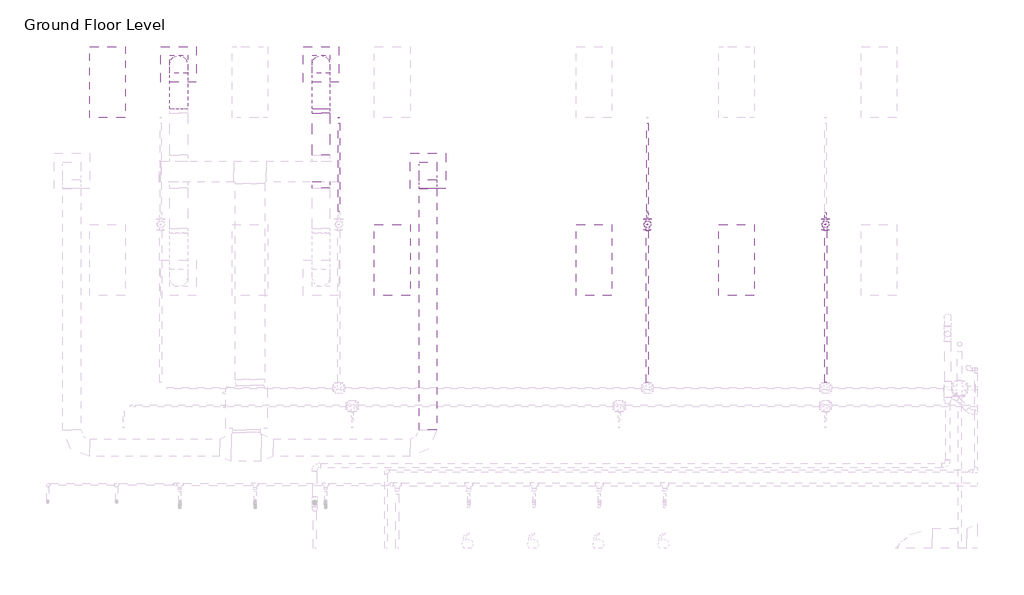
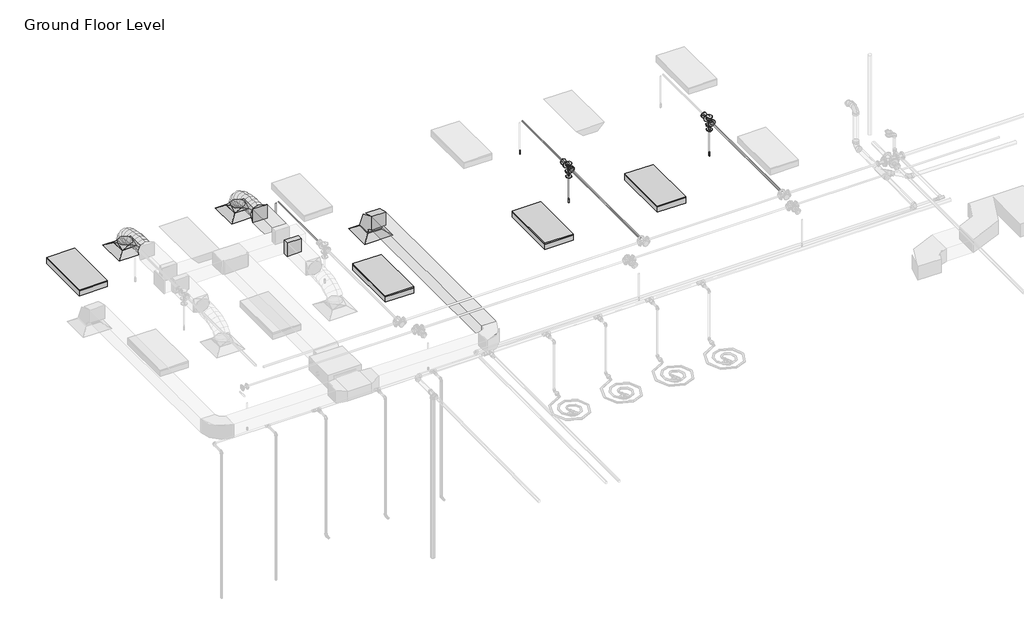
# One storey, part 53 of 66: 7 pipe segments, 6 pipe fittings, 5 duct fittings, 5 duct segments, 4 fire suppression terminals, 4 light fixtures, 3 air terminals.
"""IFC4 building model written with IfcOpenShell, lengths in millimetres."""

from ifc_helpers import new_model, si_unit, point, frame, frame_2d, origin, place, context, project, spatial, polyline, circle_curve, ellipse_curve, trimmed, segment, composite_curve, outline, extrude, transform, mapped, element, save
from ifc_brep_helpers import plane_surface, cylinder_surface, advanced_brep
from components import m_return_diffuser_600_x_600_face_300_x_300_connection_ff221211, m_rectangular_elbow_radius_1_w_618da153, m_rectangular_takeoff_standard_2be5eba1, m_rectangular_to_round_transition_angle_45_degree_641efff0, m_sprinkler_dry_pendent_hosted_15_mm_dry_pendent_9bda8e11, m_troffer_light_parabolic_rectangular1_0600x1200mm_4_lamp_86473d4a, m_reducer_flanged_cs_class_150_standard_d42b2106, m_tee_round_base_flanged_cs_class_150_standard_7e5987a1

model = new_model("IFC4")

# Units and contexts
model_context = context("Model", 3, world=origin())
ifc_project = project(units=[si_unit("LENGTHUNIT", "METRE", prefix="MILLI")], contexts=[model_context])

# Site, building, storey
site = spatial("IfcSite", under=ifc_project)
building = spatial("IfcBuilding", under=site)
storey = spatial("IfcBuildingStorey", under=building, Name="Ground Floor Level", Elevation=900.0)

# Air terminals
placement = place(None, origin())
m_return_diffuser_600_x_600_face_300_x_300_connection_shape = m_return_diffuser_600_x_600_face_300_x_300_connection_ff221211(model_context)
element("IfcAirTerminal", 1, ObjectType="M_Return Diffuser : 600 x 600 Face 300 x 300 Connection", at=placement, inside=storey, context=model_context, shape_type="MappedRepresentation", body=[
    mapped(m_return_diffuser_600_x_600_face_300_x_300_connection_shape, transform((-14937.2327605, 18735.2153534, 3650.0), x_axis=(1.0, 0.0, 0.0), y_axis=(0.0, 1.0, 0.0), z_axis=(0.0, 0.0, 1.0))),
])
element("IfcAirTerminal", 2, ObjectType="M_Supply Diffuser : 600 x 600 Face 300 x 300 Connection", at=placement, inside=storey, context=model_context, shape_type="MappedRepresentation", body=[
    mapped(m_return_diffuser_600_x_600_face_300_x_300_connection_shape, transform((-19137.2327605, 20535.2153534, 3650.0), x_axis=(1.0, 0.0, 0.0), y_axis=(0.0, 1.0, 0.0), z_axis=(0.0, 0.0, 1.0))),
])
element("IfcAirTerminal", 3, ObjectType="M_Supply Diffuser : 600 x 600 Face 300 x 300 Connection", at=placement, inside=storey, context=model_context, shape_type="MappedRepresentation", body=[
    mapped(m_return_diffuser_600_x_600_face_300_x_300_connection_shape, transform((-16737.2327605, 20535.2153534, 3650.0), x_axis=(1.0, 0.0, 0.0), y_axis=(0.0, 1.0, 0.0), z_axis=(0.0, 0.0, 1.0))),
])

# Duct fittings
m_rectangular_elbow_radius_1_w_shape = m_rectangular_elbow_radius_1_w_618da153(model_context)
element("IfcDuctFitting", 4, ObjectType="M_Rectangular Elbow - Radius : 1 W", at=placement, inside=storey, context=model_context, shape_type="MappedRepresentation", body=[
    mapped(m_rectangular_elbow_radius_1_w_shape, transform((-14937.2327605, 18735.2153534, 4075.2881511), x_axis=(0.0, 0.0, 1.0), y_axis=(0.0, -1.0, 0.0), z_axis=(1.0, 0.0, 0.0))),
])
m_rectangular_takeoff_standard_shape = m_rectangular_takeoff_standard_2be5eba1(model_context)
element("IfcDuctFitting", 5, ObjectType="M_Rectangular Takeoff : Standard", at=placement, inside=storey, context=model_context, shape_type="MappedRepresentation", body=[
    mapped(m_rectangular_takeoff_standard_shape, transform((-16737.2327605, 18549.6783949, 4099.9993619), x_axis=(0.0, -1.0, 0.0), y_axis=(-1.0, 0.0, 0.0), z_axis=(0.0, 0.0, -1.0))),
])
m_rectangular_to_round_transition_angle_45_degree_shape = m_rectangular_to_round_transition_angle_45_degree_641efff0(model_context)
element("IfcDuctFitting", 6, ObjectType="M_Rectangular to Round Transition - Angle : 45 Degree", at=placement, inside=storey, context=model_context, shape_type="MappedRepresentation", body=[
    mapped(m_rectangular_to_round_transition_angle_45_degree_shape, transform((-19137.2327605, 20535.2153534, 3751.6), x_axis=(0.0, 0.0, 1.0), y_axis=(-1.0, 0.0, 0.0), z_axis=(0.0, -1.0, 0.0))),
])
element("IfcDuctFitting", 7, ObjectType="M_Rectangular to Round Transition - Angle : 45 Degree", at=placement, inside=storey, context=model_context, shape_type="MappedRepresentation", body=[
    mapped(m_rectangular_to_round_transition_angle_45_degree_shape, transform((-16737.2327605, 20535.2153534, 3751.6), x_axis=(0.0, 0.0, 1.0), y_axis=(-1.0, 0.0, 0.0), z_axis=(0.0, -1.0, 0.0))),
])
element("IfcDuctFitting", 8, ObjectType="M_Rectangular to Round Transition - Angle : 45 Degree", at=placement, inside=storey, context=model_context, shape_type="MappedRepresentation", body=[
    mapped(m_rectangular_to_round_transition_angle_45_degree_shape, transform((-16737.2327605, 19707.878784, 4099.9993619), x_axis=(0.0, 1.0, 0.0), y_axis=(-1.0, 0.0, 0.0), z_axis=(0.0, 0.0, 1.0))),
])

# Duct segments
element("IfcDuctSegment", 9, ObjectType="Flex - Round", at=placement, inside=storey, context=model_context, shape_type="AdvancedBrep", body=[
    advanced_brep(
    [(-18987.2327605, 20535.2153534, 3826.6), (-19137.2327605, 20385.2153534, 3826.6), (-19287.2327605, 20535.2153534, 3826.6), (-19137.2327605, 20685.2153534, 3826.6), (-18987.2327605, 20535.2153534, 3857.9377363), (-19137.2327605, 20385.2153534, 3832.2944836), (-19287.2327605, 20535.2153534, 3857.9377363), (-19137.2327605, 20685.2153534, 3883.580989), (-18987.2327605, 20518.1994044, 3906.2505836), (-19137.2327605, 20384.4614628, 3834.4349814), (-19287.2327605, 20518.1994044, 3906.2505836), (-19137.2327605, 20651.937346, 3978.0661859), (-18987.2327605, 20471.0154793, 3968.711286), (-19137.2327605, 20366.8096815, 3857.8018941), (-19287.2327605, 20471.0154793, 3968.711286), (-19137.2327605, 20575.2212771, 4079.6206779), (-18987.2327605, 20399.4594609, 4016.0699627), (-19137.2327605, 20330.5255652, 3881.8161947), (-19287.2327605, 20399.4594609, 4016.0699627), (-19137.2327605, 20468.3933566, 4150.3237308), (-18987.2327605, 20309.327232, 4050.4144697), (-19137.2327605, 20265.7666436, 3906.4923095), (-19287.2327605, 20309.327232, 4050.4144697), (-19137.2327605, 20352.8878205, 4194.3366298), (-18987.2327605, 20206.4146755, 4073.8326625), (-19137.2327605, 20179.8539172, 3926.0421182), (-19287.2327605, 20206.4146755, 4073.8326625), (-19137.2327605, 20232.9754339, 4221.6232067), (-18987.2327605, 20096.5176742, 4088.4123969), (-19137.2327605, 20081.3669159, 3939.1081192), (-19287.2327605, 20096.5176742, 4088.4123969), (-19137.2327605, 20111.6684325, 4237.7166746), (-18987.2327605, 19985.4321108, 4096.2415287), (-19137.2327605, 19977.9268947, 3946.3984054), (-19287.2327605, 19985.4321108, 4096.2415287), (-19137.2327605, 19992.937327, 4246.0846519), (-18987.2327605, 19878.9538683, 4099.4079135), (-19137.2327605, 19876.262441, 3949.4216408), (-19287.2327605, 19878.9538683, 4099.4079135), (-19137.2327605, 19881.6452955, 4249.3941863), (-18987.2327605, 19782.8788293, 4099.9994072), (-19137.2327605, 19783.8022988, 4249.9965645), (-19287.2327605, 19782.8788293, 4099.9994072), (-19137.2327605, 19781.9553598, 3950.0022499)],
    [
        (0, 1, circle_curve(frame((-19137.2327605, 20535.2153534, 3826.6), z_axis=(0.0, 0.0, -1.0), x_axis=(1.0, 0.0, 0.0)), 150.0)),
        (1, 2, circle_curve(frame((-19137.2327605, 20535.2153534, 3826.6), z_axis=(0.0, 0.0, -1.0), x_axis=(1.0, 0.0, 0.0)), 150.0)),
        (2, 3, circle_curve(frame((-19137.2327605, 20535.2153534, 3826.6), z_axis=(0.0, 0.0, -1.0), x_axis=(1.0, 0.0, 0.0)), 150.0)),
        (3, 0, circle_curve(frame((-19137.2327605, 20535.2153534, 3826.6), z_axis=(0.0, 0.0, -1.0), x_axis=(1.0, 0.0, 0.0)), 150.0)),
        (0, 4),
        (4, 5, ellipse_curve(frame((-19137.2327605, 20535.2153534, 3857.9377363), z_axis=(0.0, 0.16851034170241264, -0.9856998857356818), x_axis=(0.0, -0.9856998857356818, -0.16851034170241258)), 152.1761361, 150.0)),
        (5, 1),
        (5, 6, ellipse_curve(frame((-19137.2327605, 20535.2153534, 3857.9377363), z_axis=(0.0, 0.16851034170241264, -0.9856998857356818), x_axis=(0.0, -0.9856998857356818, -0.16851034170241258)), 152.1761361, 150.0)),
        (6, 2),
        (6, 7, ellipse_curve(frame((-19137.2327605, 20535.2153534, 3857.9377363), z_axis=(0.0, 0.16851034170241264, -0.9856998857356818), x_axis=(0.0, -0.9856998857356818, -0.16851034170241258)), 152.1761361, 150.0)),
        (7, 3),
        (7, 4, ellipse_curve(frame((-19137.2327605, 20535.2153534, 3857.9377363), z_axis=(0.0, 0.16851034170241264, -0.9856998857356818), x_axis=(0.0, -0.9856998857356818, -0.16851034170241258)), 152.1761361, 150.0)),
        (4, 8),
        (8, 9, ellipse_curve(frame((-19137.2327605, 20518.1994044, 3906.2505836), z_axis=(0.0, 0.4730927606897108, -0.8810126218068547), x_axis=(0.0, -0.8810126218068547, -0.47309276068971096)), 151.8002561, 150.0)),
        (9, 5),
        (9, 10, ellipse_curve(frame((-19137.2327605, 20518.1994044, 3906.2505836), z_axis=(0.0, 0.4730927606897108, -0.8810126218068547), x_axis=(0.0, -0.8810126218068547, -0.47309276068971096)), 151.8002561, 150.0)),
        (10, 6),
        (10, 11, ellipse_curve(frame((-19137.2327605, 20518.1994044, 3906.2505836), z_axis=(0.0, 0.4730927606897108, -0.8810126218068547), x_axis=(0.0, -0.8810126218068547, -0.47309276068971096)), 151.8002561, 150.0)),
        (11, 7),
        (11, 8, ellipse_curve(frame((-19137.2327605, 20518.1994044, 3906.2505836), z_axis=(0.0, 0.4730927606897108, -0.8810126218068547), x_axis=(0.0, -0.8810126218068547, -0.47309276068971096)), 151.8002561, 150.0)),
        (8, 12),
        (12, 13, ellipse_curve(frame((-19137.2327605, 20471.0154793, 3968.711286), z_axis=(0.0, 0.7287884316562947, -0.6847389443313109), x_axis=(0.0, -0.6847389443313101, -0.7287884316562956)), 152.1832498, 150.0)),
        (13, 9),
        (13, 14, ellipse_curve(frame((-19137.2327605, 20471.0154793, 3968.711286), z_axis=(0.0, 0.7287884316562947, -0.6847389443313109), x_axis=(0.0, -0.6847389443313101, -0.7287884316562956)), 152.1832498, 150.0)),
        (14, 10),
        (14, 15, ellipse_curve(frame((-19137.2327605, 20471.0154793, 3968.711286), z_axis=(0.0, 0.7287884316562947, -0.6847389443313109), x_axis=(0.0, -0.6847389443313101, -0.7287884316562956)), 152.1832498, 150.0)),
        (15, 11),
        (15, 12, ellipse_curve(frame((-19137.2327605, 20471.0154793, 3968.711286), z_axis=(0.0, 0.7287884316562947, -0.6847389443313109), x_axis=(0.0, -0.6847389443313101, -0.7287884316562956)), 152.1832498, 150.0)),
        (12, 16),
        (16, 17, ellipse_curve(frame((-19137.2327605, 20399.4594609, 4016.0699627), z_axis=(0.0, 0.8895864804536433, -0.45676678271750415), x_axis=(0.0, -0.4567667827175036, -0.8895864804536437)), 150.9170508, 150.0)),
        (17, 13),
        (17, 18, ellipse_curve(frame((-19137.2327605, 20399.4594609, 4016.0699627), z_axis=(0.0, 0.8895864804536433, -0.45676678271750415), x_axis=(0.0, -0.4567667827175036, -0.8895864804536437)), 150.9170508, 150.0)),
        (18, 14),
        (18, 19, ellipse_curve(frame((-19137.2327605, 20399.4594609, 4016.0699627), z_axis=(0.0, 0.8895864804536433, -0.45676678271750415), x_axis=(0.0, -0.4567667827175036, -0.8895864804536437)), 150.9170508, 150.0)),
        (19, 15),
        (19, 16, ellipse_curve(frame((-19137.2327605, 20399.4594609, 4016.0699627), z_axis=(0.0, 0.8895864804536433, -0.45676678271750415), x_axis=(0.0, -0.4567667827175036, -0.8895864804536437)), 150.9170508, 150.0)),
        (16, 20),
        (20, 21, ellipse_curve(frame((-19137.2327605, 20309.327232, 4050.4144697), z_axis=(0.0, 0.9571206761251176, -0.28968950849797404), x_axis=(0.0, -0.2896895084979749, -0.9571206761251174)), 150.3699207, 150.0)),
        (21, 17),
        (21, 22, ellipse_curve(frame((-19137.2327605, 20309.327232, 4050.4144697), z_axis=(0.0, 0.9571206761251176, -0.28968950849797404), x_axis=(0.0, -0.2896895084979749, -0.9571206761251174)), 150.3699207, 150.0)),
        (22, 18),
        (22, 23, ellipse_curve(frame((-19137.2327605, 20309.327232, 4050.4144697), z_axis=(0.0, 0.9571206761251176, -0.28968950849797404), x_axis=(0.0, -0.2896895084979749, -0.9571206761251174)), 150.3699207, 150.0)),
        (23, 19),
        (23, 20, ellipse_curve(frame((-19137.2327605, 20309.327232, 4050.4144697), z_axis=(0.0, 0.9571206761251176, -0.28968950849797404), x_axis=(0.0, -0.2896895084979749, -0.9571206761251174)), 150.3699207, 150.0)),
        (20, 24),
        (24, 25, ellipse_curve(frame((-19137.2327605, 20206.4146755, 4073.8326625), z_axis=(0.0, 0.9842315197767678, -0.17688503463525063), x_axis=(0.0, -0.17688503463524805, -0.9842315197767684)), 150.1583126, 150.0)),
        (25, 21),
        (25, 26, ellipse_curve(frame((-19137.2327605, 20206.4146755, 4073.8326625), z_axis=(0.0, 0.9842315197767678, -0.17688503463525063), x_axis=(0.0, -0.17688503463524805, -0.9842315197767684)), 150.1583126, 150.0)),
        (26, 22),
        (26, 27, ellipse_curve(frame((-19137.2327605, 20206.4146755, 4073.8326625), z_axis=(0.0, 0.9842315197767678, -0.17688503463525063), x_axis=(0.0, -0.17688503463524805, -0.9842315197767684)), 150.1583126, 150.0)),
        (27, 23),
        (27, 24, ellipse_curve(frame((-19137.2327605, 20206.4146755, 4073.8326625), z_axis=(0.0, 0.9842315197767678, -0.17688503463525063), x_axis=(0.0, -0.17688503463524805, -0.9842315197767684)), 150.1583126, 150.0)),
        (24, 28),
        (28, 29, ellipse_curve(frame((-19137.2327605, 20096.5176742, 4088.4123969), z_axis=(0.0, 0.994890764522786, -0.10095725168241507), x_axis=(0.0, -0.10095725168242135, -0.9948907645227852)), 150.0710259, 150.0)),
        (29, 25),
        (29, 30, ellipse_curve(frame((-19137.2327605, 20096.5176742, 4088.4123969), z_axis=(0.0, 0.994890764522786, -0.10095725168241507), x_axis=(0.0, -0.10095725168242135, -0.9948907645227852)), 150.0710259, 150.0)),
        (30, 26),
        (30, 31, ellipse_curve(frame((-19137.2327605, 20096.5176742, 4088.4123969), z_axis=(0.0, 0.994890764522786, -0.10095725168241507), x_axis=(0.0, -0.10095725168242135, -0.9948907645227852)), 150.0710259, 150.0)),
        (31, 27),
        (31, 28, ellipse_curve(frame((-19137.2327605, 20096.5176742, 4088.4123969), z_axis=(0.0, 0.994890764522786, -0.10095725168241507), x_axis=(0.0, -0.10095725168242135, -0.9948907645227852)), 150.0710259, 150.0)),
        (28, 32),
        (32, 33, ellipse_curve(frame((-19137.2327605, 19985.4321108, 4096.2415287), z_axis=(0.0, 0.9987479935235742, -0.05002444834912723), x_axis=(0.0, -0.05002444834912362, -0.9987479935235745)), 150.030963, 150.0)),
        (33, 29),
        (33, 34, ellipse_curve(frame((-19137.2327605, 19985.4321108, 4096.2415287), z_axis=(0.0, 0.9987479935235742, -0.05002444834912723), x_axis=(0.0, -0.05002444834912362, -0.9987479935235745)), 150.030963, 150.0)),
        (34, 30),
        (34, 35, ellipse_curve(frame((-19137.2327605, 19985.4321108, 4096.2415287), z_axis=(0.0, 0.9987479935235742, -0.05002444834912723), x_axis=(0.0, -0.05002444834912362, -0.9987479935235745)), 150.030963, 150.0)),
        (35, 31),
        (35, 32, ellipse_curve(frame((-19137.2327605, 19985.4321108, 4096.2415287), z_axis=(0.0, 0.9987479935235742, -0.05002444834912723), x_axis=(0.0, -0.05002444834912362, -0.9987479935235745)), 150.030963, 150.0)),
        (32, 36),
        (36, 37, ellipse_curve(frame((-19137.2327605, 19878.9538683, 4099.4079135), z_axis=(0.0, 0.9998390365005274, -0.017941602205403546), x_axis=(0.0, -0.01794160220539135, -0.9998390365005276)), 150.0104189, 150.0)),
        (37, 33),
        (37, 38, ellipse_curve(frame((-19137.2327605, 19878.9538683, 4099.4079135), z_axis=(0.0, 0.9998390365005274, -0.017941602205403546), x_axis=(0.0, -0.01794160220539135, -0.9998390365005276)), 150.0104189, 150.0)),
        (38, 34),
        (38, 39, ellipse_curve(frame((-19137.2327605, 19878.9538683, 4099.4079135), z_axis=(0.0, 0.9998390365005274, -0.017941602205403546), x_axis=(0.0, -0.01794160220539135, -0.9998390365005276)), 150.0104189, 150.0)),
        (39, 35),
        (39, 36, ellipse_curve(frame((-19137.2327605, 19878.9538683, 4099.4079135), z_axis=(0.0, 0.9998390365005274, -0.017941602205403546), x_axis=(0.0, -0.01794160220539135, -0.9998390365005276)), 150.0104189, 150.0)),
        (40, 41, circle_curve(frame((-19137.2327605, 19782.8788293, 4099.9994072), z_axis=(0.0, -0.9999810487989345, 0.006156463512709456), x_axis=(1.0, 0.0, 0.0)), 150.0)),
        (41, 42, circle_curve(frame((-19137.2327605, 19782.8788293, 4099.9994072), z_axis=(0.0, -0.9999810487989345, 0.006156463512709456), x_axis=(1.0, 0.0, 0.0)), 150.0)),
        (42, 43, circle_curve(frame((-19137.2327605, 19782.8788293, 4099.9994072), z_axis=(0.0, -0.9999810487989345, 0.006156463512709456), x_axis=(1.0, 0.0, 0.0)), 150.0)),
        (43, 40, circle_curve(frame((-19137.2327605, 19782.8788293, 4099.9994072), z_axis=(0.0, -0.9999810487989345, 0.006156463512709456), x_axis=(1.0, 0.0, 0.0)), 150.0)),
        (36, 40),
        (43, 37),
        (42, 38),
        (41, 39),
    ],
    [
        plane_surface(frame((-19137.2327605, 20385.2153534, 3826.6), z_axis=(0.0, 0.0, -1.0), x_axis=(1.0, 0.0, 0.0))),
        cylinder_surface(frame((-19137.2327605, 20535.2153534, 3826.6), z_axis=(0.0, 0.0, -1.0), x_axis=(1.0, 0.0, 0.0)), 150.0),
        cylinder_surface(frame((-19137.2327605, 20535.2153534, 3857.9377363), z_axis=(0.0, 0.33220124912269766, -0.9432085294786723), x_axis=(1.0, 0.0, 0.0)), 150.0),
        cylinder_surface(frame((-19137.2327605, 20518.1994044, 3906.2505836), z_axis=(0.0, 0.602763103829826, -0.7979201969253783), x_axis=(1.0, 0.0, 0.0)), 150.0),
        cylinder_surface(frame((-19137.2327605, 20471.0154793, 3968.711286), z_axis=(0.0, 0.8339030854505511, -0.5519109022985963), x_axis=(1.0, 0.0, 0.0)), 150.0),
        cylinder_surface(frame((-19137.2327605, 20399.4594609, 4016.0699627), z_axis=(0.0, 0.9344586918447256, -0.3560715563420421), x_axis=(1.0, 0.0, 0.0)), 150.0),
        cylinder_surface(frame((-19137.2327605, 20309.327232, 4050.4144697), z_axis=(0.0, 0.9750734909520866, -0.22188214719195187), x_axis=(1.0, 0.0, 0.0)), 150.0),
        cylinder_surface(frame((-19137.2327605, 20206.4146755, 4073.8326625), z_axis=(0.0, 0.9913141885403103, -0.1315149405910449), x_axis=(1.0, 0.0, 0.0)), 150.0),
        cylinder_surface(frame((-19137.2327605, 20096.5176742, 4088.4123969), z_axis=(0.0, 0.9975256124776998, -0.07030400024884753), x_axis=(1.0, 0.0, 0.0)), 150.0),
        cylinder_surface(frame((-19137.2327605, 19985.4321108, 4096.2415287), z_axis=(0.0, 0.9995581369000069, -0.029724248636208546), x_axis=(1.0, 0.0, 0.0)), 150.0),
        plane_surface(frame((-19137.2327605, 19781.9553598, 3950.0022499), z_axis=(0.0, -0.9999810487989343, 0.0061564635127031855), x_axis=(1.0, 0.0, 0.0))),
        cylinder_surface(frame((-19137.2327605, 19878.9538683, 4099.4079135), z_axis=(0.0, 0.9999810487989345, -0.006156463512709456), x_axis=(1.0, 0.0, 0.0)), 150.0),
    ],
    [
        (0, [[1, 2, 3, 4]]),
        (1, [[-1, 5, 6, 7]]),
        (1, [[-2, -7, 8, 9]]),
        (1, [[-3, -9, 10, 11]]),
        (1, [[-4, -11, 12, -5]]),
        (2, [[-6, 13, 14, 15]]),
        (2, [[-8, -15, 16, 17]]),
        (2, [[-10, -17, 18, 19]]),
        (2, [[-12, -19, 20, -13]]),
        (3, [[-14, 21, 22, 23]]),
        (3, [[-16, -23, 24, 25]]),
        (3, [[-18, -25, 26, 27]]),
        (3, [[-20, -27, 28, -21]]),
        (4, [[-22, 29, 30, 31]]),
        (4, [[-24, -31, 32, 33]]),
        (4, [[-26, -33, 34, 35]]),
        (4, [[-28, -35, 36, -29]]),
        (5, [[-30, 37, 38, 39]]),
        (5, [[-32, -39, 40, 41]]),
        (5, [[-34, -41, 42, 43]]),
        (5, [[-36, -43, 44, -37]]),
        (6, [[-38, 45, 46, 47]]),
        (6, [[-40, -47, 48, 49]]),
        (6, [[-42, -49, 50, 51]]),
        (6, [[-44, -51, 52, -45]]),
        (7, [[-46, 53, 54, 55]]),
        (7, [[-48, -55, 56, 57]]),
        (7, [[-50, -57, 58, 59]]),
        (7, [[-52, -59, 60, -53]]),
        (8, [[-54, 61, 62, 63]]),
        (8, [[-56, -63, 64, 65]]),
        (8, [[-58, -65, 66, 67]]),
        (8, [[-60, -67, 68, -61]]),
        (9, [[-62, 69, 70, 71]]),
        (9, [[-64, -71, 72, 73]]),
        (9, [[-66, -73, 74, 75]]),
        (9, [[-68, -75, 76, -69]]),
        (10, [[77, 78, 79, 80]]),
        (11, [[-70, 81, -80, 82]]),
        (11, [[-72, -82, -79, 83]]),
        (11, [[-74, -83, -78, 84]]),
        (11, [[-76, -84, -77, -81]]),
    ],
),
])
element("IfcDuctSegment", 10, ObjectType="Flex - Round", at=placement, inside=storey, context=model_context, shape_type="AdvancedBrep", body=[
    advanced_brep(
    [(-16587.2327605, 20535.2153534, 3826.6), (-16737.2327605, 20385.2153534, 3826.6), (-16887.2327605, 20535.2153534, 3826.6), (-16737.2327605, 20685.2153534, 3826.6), (-16587.2327605, 20535.2153534, 3857.9377382), (-16737.2327605, 20385.2153534, 3832.2944832), (-16887.2327605, 20535.2153534, 3857.9377382), (-16737.2327605, 20685.2153534, 3883.5809933), (-16587.2327605, 20518.1994031, 3906.2505845), (-16737.2327605, 20384.4614644, 3834.4349763), (-16887.2327605, 20518.1994031, 3906.2505845), (-16737.2327605, 20651.9373419, 3978.0661927), (-16587.2327605, 20471.0154746, 3968.7112839), (-16737.2327605, 20366.8096846, 3857.8018842), (-16887.2327605, 20471.0154746, 3968.7112839), (-16737.2327605, 20575.2212646, 4079.6206836), (-16587.2327605, 20399.4594512, 4016.069955), (-16737.2327605, 20330.5255676, 3881.8161806), (-16887.2327605, 20399.4594512, 4016.069955), (-16737.2327605, 20468.3933347, 4150.3237294), (-16587.2327605, 20309.3272161, 4050.4144545), (-16737.2327605, 20265.7666411, 3906.4922903), (-16887.2327605, 20309.3272161, 4050.4144545), (-16737.2327605, 20352.8877912, 4194.3366186), (-16587.2327605, 20206.4146528, 4073.832639), (-16737.2327605, 20179.8539072, 3926.0420925), (-16887.2327605, 20206.4146528, 4073.832639), (-16737.2327605, 20232.9753985, 4221.6231855), (-16587.2327605, 20096.5176446, 4088.4123653), (-16737.2327605, 20081.3668973, 3939.1080865), (-16887.2327605, 20096.5176446, 4088.4123653), (-16737.2327605, 20111.668392, 4237.7166441), (-16587.2327605, 19985.4320749, 4096.2414901), (-16737.2327605, 19977.9268673, 3946.3983665), (-16887.2327605, 19985.4320749, 4096.2414901), (-16737.2327605, 19992.9372825, 4246.0846137), (-16587.2327605, 19878.9538269, 4099.4078701), (-16737.2327605, 19876.2624046, 3949.4215972), (-16887.2327605, 19878.9538269, 4099.4078701), (-16737.2327605, 19881.6452491, 4249.3941429), (-16587.2327605, 19782.878784, 4099.9993619), (-16737.2327605, 19783.8022506, 4249.9965192), (-16887.2327605, 19782.878784, 4099.9993619), (-16737.2327605, 19781.9553174, 3950.0022045)],
    [
        (0, 1, circle_curve(frame((-16737.2327605, 20535.2153534, 3826.6), z_axis=(0.0, 0.0, -1.0), x_axis=(1.0, 0.0, 0.0)), 150.0)),
        (1, 2, circle_curve(frame((-16737.2327605, 20535.2153534, 3826.6), z_axis=(0.0, 0.0, -1.0), x_axis=(1.0, 0.0, 0.0)), 150.0)),
        (2, 3, circle_curve(frame((-16737.2327605, 20535.2153534, 3826.6), z_axis=(0.0, 0.0, -1.0), x_axis=(1.0, 0.0, 0.0)), 150.0)),
        (3, 0, circle_curve(frame((-16737.2327605, 20535.2153534, 3826.6), z_axis=(0.0, 0.0, -1.0), x_axis=(1.0, 0.0, 0.0)), 150.0)),
        (0, 4),
        (4, 5, ellipse_curve(frame((-16737.2327605, 20535.2153534, 3857.9377382), z_axis=(0.0, 0.16851035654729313, -0.9856998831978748), x_axis=(0.0, -0.9856998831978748, -0.16851035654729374)), 152.1761365, 150.0)),
        (5, 1),
        (5, 6, ellipse_curve(frame((-16737.2327605, 20535.2153534, 3857.9377382), z_axis=(0.0, 0.16851035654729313, -0.9856998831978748), x_axis=(0.0, -0.9856998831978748, -0.16851035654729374)), 152.1761365, 150.0)),
        (6, 2),
        (6, 7, ellipse_curve(frame((-16737.2327605, 20535.2153534, 3857.9377382), z_axis=(0.0, 0.16851035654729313, -0.9856998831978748), x_axis=(0.0, -0.9856998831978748, -0.16851035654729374)), 152.1761365, 150.0)),
        (7, 3),
        (7, 4, ellipse_curve(frame((-16737.2327605, 20535.2153534, 3857.9377382), z_axis=(0.0, 0.16851035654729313, -0.9856998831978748), x_axis=(0.0, -0.9856998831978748, -0.16851035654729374)), 152.1761365, 150.0)),
        (4, 8),
        (8, 9, ellipse_curve(frame((-16737.2327605, 20518.1994031, 3906.2505845), z_axis=(0.0, 0.47309279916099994, -0.8810126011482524), x_axis=(0.0, -0.8810126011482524, -0.4730927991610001)), 151.8002564, 150.0)),
        (9, 5),
        (9, 10, ellipse_curve(frame((-16737.2327605, 20518.1994031, 3906.2505845), z_axis=(0.0, 0.47309279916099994, -0.8810126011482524), x_axis=(0.0, -0.8810126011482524, -0.4730927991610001)), 151.8002564, 150.0)),
        (10, 6),
        (10, 11, ellipse_curve(frame((-16737.2327605, 20518.1994031, 3906.2505845), z_axis=(0.0, 0.47309279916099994, -0.8810126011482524), x_axis=(0.0, -0.8810126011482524, -0.4730927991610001)), 151.8002564, 150.0)),
        (11, 7),
        (11, 8, ellipse_curve(frame((-16737.2327605, 20518.1994031, 3906.2505845), z_axis=(0.0, 0.47309279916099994, -0.8810126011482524), x_axis=(0.0, -0.8810126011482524, -0.4730927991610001)), 151.8002564, 150.0)),
        (8, 12),
        (12, 13, ellipse_curve(frame((-16737.2327605, 20471.0154746, 3968.7112839), z_axis=(0.0, 0.7287884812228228, -0.6847388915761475), x_axis=(0.0, -0.6847388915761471, -0.7287884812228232)), 152.1832501, 150.0)),
        (13, 9),
        (13, 14, ellipse_curve(frame((-16737.2327605, 20471.0154746, 3968.7112839), z_axis=(0.0, 0.7287884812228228, -0.6847388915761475), x_axis=(0.0, -0.6847388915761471, -0.7287884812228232)), 152.1832501, 150.0)),
        (14, 10),
        (14, 15, ellipse_curve(frame((-16737.2327605, 20471.0154746, 3968.7112839), z_axis=(0.0, 0.7287884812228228, -0.6847388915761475), x_axis=(0.0, -0.6847388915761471, -0.7287884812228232)), 152.1832501, 150.0)),
        (15, 11),
        (15, 12, ellipse_curve(frame((-16737.2327605, 20471.0154746, 3968.7112839), z_axis=(0.0, 0.7287884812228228, -0.6847388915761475), x_axis=(0.0, -0.6847388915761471, -0.7287884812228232)), 152.1832501, 150.0)),
        (12, 16),
        (16, 17, ellipse_curve(frame((-16737.2327605, 20399.4594512, 4016.069955), z_axis=(0.0, 0.8895865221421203, -0.4567667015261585), x_axis=(0.0, -0.45676670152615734, -0.8895865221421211)), 150.9170508, 150.0)),
        (17, 13),
        (17, 18, ellipse_curve(frame((-16737.2327605, 20399.4594512, 4016.069955), z_axis=(0.0, 0.8895865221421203, -0.4567667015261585), x_axis=(0.0, -0.45676670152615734, -0.8895865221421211)), 150.9170508, 150.0)),
        (18, 14),
        (18, 19, ellipse_curve(frame((-16737.2327605, 20399.4594512, 4016.069955), z_axis=(0.0, 0.8895865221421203, -0.4567667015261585), x_axis=(0.0, -0.45676670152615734, -0.8895865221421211)), 150.9170508, 150.0)),
        (19, 15),
        (19, 16, ellipse_curve(frame((-16737.2327605, 20399.4594512, 4016.069955), z_axis=(0.0, 0.8895865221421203, -0.4567667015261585), x_axis=(0.0, -0.45676670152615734, -0.8895865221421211)), 150.9170508, 150.0)),
        (16, 20),
        (20, 21, ellipse_curve(frame((-16737.2327605, 20309.3272161, 4050.4144545), z_axis=(0.0, 0.9571207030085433, -0.28968941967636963), x_axis=(0.0, -0.2896894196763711, -0.9571207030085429)), 150.3699206, 150.0)),
        (21, 17),
        (21, 22, ellipse_curve(frame((-16737.2327605, 20309.3272161, 4050.4144545), z_axis=(0.0, 0.9571207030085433, -0.28968941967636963), x_axis=(0.0, -0.2896894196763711, -0.9571207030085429)), 150.3699206, 150.0)),
        (22, 18),
        (22, 23, ellipse_curve(frame((-16737.2327605, 20309.3272161, 4050.4144545), z_axis=(0.0, 0.9571207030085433, -0.28968941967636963), x_axis=(0.0, -0.2896894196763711, -0.9571207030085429)), 150.3699206, 150.0)),
        (23, 19),
        (23, 20, ellipse_curve(frame((-16737.2327605, 20309.3272161, 4050.4144545), z_axis=(0.0, 0.9571207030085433, -0.28968941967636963), x_axis=(0.0, -0.2896894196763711, -0.9571207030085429)), 150.3699206, 150.0)),
        (20, 24),
        (24, 25, ellipse_curve(frame((-16737.2327605, 20206.4146528, 4073.832639), z_axis=(0.0, 0.9842315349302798, -0.17688495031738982), x_axis=(0.0, -0.1768849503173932, -0.9842315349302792)), 150.1583126, 150.0)),
        (25, 21),
        (25, 26, ellipse_curve(frame((-16737.2327605, 20206.4146528, 4073.832639), z_axis=(0.0, 0.9842315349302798, -0.17688495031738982), x_axis=(0.0, -0.1768849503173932, -0.9842315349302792)), 150.1583126, 150.0)),
        (26, 22),
        (26, 27, ellipse_curve(frame((-16737.2327605, 20206.4146528, 4073.832639), z_axis=(0.0, 0.9842315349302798, -0.17688495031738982), x_axis=(0.0, -0.1768849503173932, -0.9842315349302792)), 150.1583126, 150.0)),
        (27, 23),
        (27, 24, ellipse_curve(frame((-16737.2327605, 20206.4146528, 4073.832639), z_axis=(0.0, 0.9842315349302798, -0.17688495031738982), x_axis=(0.0, -0.1768849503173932, -0.9842315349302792)), 150.1583126, 150.0)),
        (24, 28),
        (28, 29, ellipse_curve(frame((-16737.2327605, 20096.5176446, 4088.4123653), z_axis=(0.0, 0.9948907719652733, -0.10095717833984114), x_axis=(0.0, -0.10095717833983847, -0.9948907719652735)), 150.0710259, 150.0)),
        (29, 25),
        (29, 30, ellipse_curve(frame((-16737.2327605, 20096.5176446, 4088.4123653), z_axis=(0.0, 0.9948907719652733, -0.10095717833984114), x_axis=(0.0, -0.10095717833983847, -0.9948907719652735)), 150.0710259, 150.0)),
        (30, 26),
        (30, 31, ellipse_curve(frame((-16737.2327605, 20096.5176446, 4088.4123653), z_axis=(0.0, 0.9948907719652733, -0.10095717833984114), x_axis=(0.0, -0.10095717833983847, -0.9948907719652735)), 150.0710259, 150.0)),
        (31, 27),
        (31, 28, ellipse_curve(frame((-16737.2327605, 20096.5176446, 4088.4123653), z_axis=(0.0, 0.9948907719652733, -0.10095717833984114), x_axis=(0.0, -0.10095717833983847, -0.9948907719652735)), 150.0710259, 150.0)),
        (28, 32),
        (32, 33, ellipse_curve(frame((-16737.2327605, 19985.4320749, 4096.2414901), z_axis=(0.0, 0.9987479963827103, -0.050024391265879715), x_axis=(0.0, -0.05002439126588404, -0.9987479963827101)), 150.0309629, 150.0)),
        (33, 29),
        (33, 34, ellipse_curve(frame((-16737.2327605, 19985.4320749, 4096.2414901), z_axis=(0.0, 0.9987479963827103, -0.050024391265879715), x_axis=(0.0, -0.05002439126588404, -0.9987479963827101)), 150.0309629, 150.0)),
        (34, 30),
        (34, 35, ellipse_curve(frame((-16737.2327605, 19985.4320749, 4096.2414901), z_axis=(0.0, 0.9987479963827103, -0.050024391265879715), x_axis=(0.0, -0.05002439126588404, -0.9987479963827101)), 150.0309629, 150.0)),
        (35, 31),
        (35, 32, ellipse_curve(frame((-16737.2327605, 19985.4320749, 4096.2414901), z_axis=(0.0, 0.9987479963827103, -0.050024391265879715), x_axis=(0.0, -0.05002439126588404, -0.9987479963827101)), 150.0309629, 150.0)),
        (32, 36),
        (36, 37, ellipse_curve(frame((-16737.2327605, 19878.9538269, 4099.4078701), z_axis=(0.0, 0.9998390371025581, -0.01794156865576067), x_axis=(0.0, -0.017941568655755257, -0.9998390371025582)), 150.0104189, 150.0)),
        (37, 33),
        (37, 38, ellipse_curve(frame((-16737.2327605, 19878.9538269, 4099.4078701), z_axis=(0.0, 0.9998390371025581, -0.01794156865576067), x_axis=(0.0, -0.017941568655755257, -0.9998390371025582)), 150.0104189, 150.0)),
        (38, 34),
        (38, 39, ellipse_curve(frame((-16737.2327605, 19878.9538269, 4099.4078701), z_axis=(0.0, 0.9998390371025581, -0.01794156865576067), x_axis=(0.0, -0.017941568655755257, -0.9998390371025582)), 150.0104189, 150.0)),
        (39, 35),
        (39, 36, ellipse_curve(frame((-16737.2327605, 19878.9538269, 4099.4078701), z_axis=(0.0, 0.9998390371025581, -0.01794156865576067), x_axis=(0.0, -0.017941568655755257, -0.9998390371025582)), 150.0104189, 150.0)),
        (40, 41, circle_curve(frame((-16737.2327605, 19782.878784, 4099.9993619), z_axis=(0.0, -0.9999810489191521, 0.0061564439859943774), x_axis=(1.0, 0.0, 0.0)), 150.0)),
        (41, 42, circle_curve(frame((-16737.2327605, 19782.878784, 4099.9993619), z_axis=(0.0, -0.9999810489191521, 0.0061564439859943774), x_axis=(1.0, 0.0, 0.0)), 150.0)),
        (42, 43, circle_curve(frame((-16737.2327605, 19782.878784, 4099.9993619), z_axis=(0.0, -0.9999810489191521, 0.0061564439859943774), x_axis=(1.0, 0.0, 0.0)), 150.0)),
        (43, 40, circle_curve(frame((-16737.2327605, 19782.878784, 4099.9993619), z_axis=(0.0, -0.9999810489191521, 0.0061564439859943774), x_axis=(1.0, 0.0, 0.0)), 150.0)),
        (36, 40),
        (43, 37),
        (42, 38),
        (41, 39),
    ],
    [
        plane_surface(frame((-16737.2327605, 20385.2153534, 3826.6), z_axis=(0.0, 0.0, -1.0), x_axis=(1.0, 0.0, 0.0))),
        cylinder_surface(frame((-16737.2327605, 20535.2153534, 3826.6), z_axis=(0.0, 0.0, -1.0), x_axis=(1.0, 0.0, 0.0)), 150.0),
        cylinder_surface(frame((-16737.2327605, 20535.2153534, 3857.9377382), z_axis=(0.0, 0.33220127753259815, -0.9432085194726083), x_axis=(1.0, 0.0, 0.0)), 150.0),
        cylinder_surface(frame((-16737.2327605, 20518.1994031, 3906.2505845), z_axis=(0.0, 0.6027631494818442, -0.79792016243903), x_axis=(1.0, 0.0, 0.0)), 150.0),
        cylinder_surface(frame((-16737.2327605, 20471.0154746, 3968.7112839), z_axis=(0.0, 0.833903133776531, -0.5519108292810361), x_axis=(1.0, 0.0, 0.0)), 150.0),
        cylinder_surface(frame((-16737.2327605, 20399.4594512, 4016.069955), z_axis=(0.0, 0.9344587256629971, -0.3560714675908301), x_axis=(1.0, 0.0, 0.0)), 150.0),
        cylinder_surface(frame((-16737.2327605, 20309.3272161, 4050.4144545), z_axis=(0.0, 0.9750735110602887, -0.22188205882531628), x_axis=(1.0, 0.0, 0.0)), 150.0),
        cylinder_surface(frame((-16737.2327605, 20206.4146528, 4073.832639), z_axis=(0.0, 0.9913141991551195, -0.13151486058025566), x_axis=(1.0, 0.0, 0.0)), 150.0),
        cylinder_surface(frame((-16737.2327605, 20096.5176446, 4088.4123653), z_axis=(0.0, 0.997525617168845, -0.07030393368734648), x_axis=(1.0, 0.0, 0.0)), 150.0),
        cylinder_surface(frame((-16737.2327605, 19985.4320749, 4096.2414901), z_axis=(0.0, 0.9995581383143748, -0.029724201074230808), x_axis=(1.0, 0.0, 0.0)), 150.0),
        plane_surface(frame((-16737.2327605, 19781.9553174, 3950.0022045), z_axis=(0.0, -0.999981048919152, 0.0061564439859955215), x_axis=(1.0, 0.0, 0.0))),
        cylinder_surface(frame((-16737.2327605, 19878.9538269, 4099.4078701), z_axis=(0.0, 0.9999810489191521, -0.0061564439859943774), x_axis=(1.0, 0.0, 0.0)), 150.0),
    ],
    [
        (0, [[1, 2, 3, 4]]),
        (1, [[-1, 5, 6, 7]]),
        (1, [[-2, -7, 8, 9]]),
        (1, [[-3, -9, 10, 11]]),
        (1, [[-4, -11, 12, -5]]),
        (2, [[-6, 13, 14, 15]]),
        (2, [[-8, -15, 16, 17]]),
        (2, [[-10, -17, 18, 19]]),
        (2, [[-12, -19, 20, -13]]),
        (3, [[-14, 21, 22, 23]]),
        (3, [[-16, -23, 24, 25]]),
        (3, [[-18, -25, 26, 27]]),
        (3, [[-20, -27, 28, -21]]),
        (4, [[-22, 29, 30, 31]]),
        (4, [[-24, -31, 32, 33]]),
        (4, [[-26, -33, 34, 35]]),
        (4, [[-28, -35, 36, -29]]),
        (5, [[-30, 37, 38, 39]]),
        (5, [[-32, -39, 40, 41]]),
        (5, [[-34, -41, 42, 43]]),
        (5, [[-36, -43, 44, -37]]),
        (6, [[-38, 45, 46, 47]]),
        (6, [[-40, -47, 48, 49]]),
        (6, [[-42, -49, 50, 51]]),
        (6, [[-44, -51, 52, -45]]),
        (7, [[-46, 53, 54, 55]]),
        (7, [[-48, -55, 56, 57]]),
        (7, [[-50, -57, 58, 59]]),
        (7, [[-52, -59, 60, -53]]),
        (8, [[-54, 61, 62, 63]]),
        (8, [[-56, -63, 64, 65]]),
        (8, [[-58, -65, 66, 67]]),
        (8, [[-60, -67, 68, -61]]),
        (9, [[-62, 69, 70, 71]]),
        (9, [[-64, -71, 72, 73]]),
        (9, [[-66, -73, 74, 75]]),
        (9, [[-68, -75, 76, -69]]),
        (10, [[77, 78, 79, 80]]),
        (11, [[-70, 81, -80, 82]]),
        (11, [[-72, -82, -79, 83]]),
        (11, [[-74, -83, -78, 84]]),
        (11, [[-76, -84, -77, -81]]),
    ],
),
])
element("IfcDuctSegment", 11, ObjectType="Radius Elbows / Taps", at=placement, inside=storey, context=model_context, shape_type="SweptSolid", body=[
    extrude(outline(polyline([(-14787.2327605, 14369.8153534), (-15087.2327605, 14369.8153534), (-15087.2327605, 18435.2153534), (-14787.2327605, 18435.2153534), (-14787.2327605, 14369.8153534)])), frame((0.0, 0.0, 3925.2881511), z_axis=(0.0, 0.0, 1.0), x_axis=(1.0, 0.0, 0.0)), (0.0, 0.0, 1.0), 300.0),
])
element("IfcDuctSegment", 12, ObjectType="Radius Elbows / Taps", at=placement, inside=storey, context=model_context, shape_type="SweptSolid", body=[
    extrude(outline(polyline([(-14787.2327605, 18585.2153534), (-15087.2327605, 18585.2153534), (-15087.2327605, 18885.2153534), (-14787.2327605, 18885.2153534), (-14787.2327605, 18585.2153534)])), frame((0.0, 0.0, 3751.6), z_axis=(0.0, 0.0, 1.0), x_axis=(1.0, 0.0, 0.0)), (0.0, 0.0, 1.0), 23.6881511),
])
element("IfcDuctSegment", 13, ObjectType="Radius Elbows / Taps", at=placement, inside=storey, context=model_context, shape_type="SweptSolid", body=[
    extrude(outline(polyline([(-16587.2327605, 19001.2783949), (-16887.2327605, 19001.2783949), (-16887.2327605, 19707.878784), (-16587.2327605, 19707.878784), (-16587.2327605, 19001.2783949)])), frame((0.0, 0.0, 3949.9993619), z_axis=(0.0, 0.0, 1.0), x_axis=(1.0, 0.0, 0.0)), (0.0, 0.0, 1.0), 300.0),
])

# Fire suppression terminals
m_sprinkler_dry_pendent_hosted_15_mm_dry_pendent_shape = m_sprinkler_dry_pendent_hosted_15_mm_dry_pendent_9bda8e11(model_context)
element("IfcFireSuppressionTerminal", 14, ObjectType="M_Sprinkler - Dry - Pendent - Hosted : 15 mm Dry Pendent", at=placement, inside=storey, context=model_context, shape_type="MappedRepresentation", body=[
    mapped(m_sprinkler_dry_pendent_hosted_15_mm_dry_pendent_shape, transform((-16437.2327605, 19635.2153534, 3650.0), x_axis=(1.0, 0.0, 0.0), y_axis=(0.0, -1.0, 0.0), z_axis=(0.0, 0.0, -1.0))),
])
element("IfcFireSuppressionTerminal", 15, ObjectType="M_Sprinkler - Dry - Pendent - Hosted : 15 mm Dry Pendent", at=placement, inside=storey, context=model_context, shape_type="MappedRepresentation", body=[
    mapped(m_sprinkler_dry_pendent_hosted_15_mm_dry_pendent_shape, transform((-11237.2327605, 19635.2153534, 3650.0), x_axis=(1.0, 0.0, 0.0), y_axis=(0.0, -1.0, 0.0), z_axis=(0.0, 0.0, -1.0))),
])
element("IfcFireSuppressionTerminal", 16, ObjectType="M_Sprinkler - Dry - Pendent - Hosted : 15 mm Dry Pendent", at=placement, inside=storey, context=model_context, shape_type="MappedRepresentation", body=[
    mapped(m_sprinkler_dry_pendent_hosted_15_mm_dry_pendent_shape, transform((-8237.2327605, 17835.2153534, 3650.0), x_axis=(1.0, 0.0, 0.0), y_axis=(0.0, -1.0, 0.0), z_axis=(0.0, 0.0, -1.0))),
])
element("IfcFireSuppressionTerminal", 17, ObjectType="M_Sprinkler - Dry - Pendent - Hosted : 15 mm Dry Pendent", at=placement, inside=storey, context=model_context, shape_type="MappedRepresentation", body=[
    mapped(m_sprinkler_dry_pendent_hosted_15_mm_dry_pendent_shape, transform((-11237.2327605, 17835.2153534, 3650.0), x_axis=(1.0, 0.0, 0.0), y_axis=(0.0, -1.0, 0.0), z_axis=(0.0, 0.0, -1.0))),
])

# Light fixtures
m_troffer_light_parabolic_rectangular1_0600x1200mm_4_lamp_shape = m_troffer_light_parabolic_rectangular1_0600x1200mm_4_lamp_86473d4a(model_context)
element("IfcLightFixture", 18, ObjectType="M_Troffer Light - Parabolic Rectangular1 : 0600x1200mm(4 Lamp) - 277V 2", at=placement, inside=storey, context=model_context, shape_type="MappedRepresentation", body=[
    mapped(m_troffer_light_parabolic_rectangular1_0600x1200mm_4_lamp_shape, transform((-20396.6986926, 20253.918855, 3650.0), x_axis=(0.0, 1.0, 0.0), y_axis=(-1.0, 0.0, 0.0), z_axis=(0.0, 0.0, 1.0))),
])
element("IfcLightFixture", 19, ObjectType="M_Troffer Light - Parabolic Rectangular1 : 0600x1200mm(4 Lamp) - 277V 2", at=placement, inside=storey, context=model_context, shape_type="MappedRepresentation", body=[
    mapped(m_troffer_light_parabolic_rectangular1_0600x1200mm_4_lamp_shape, transform((-15596.6986926, 17253.918855, 3650.0), x_axis=(0.0, 1.0, 0.0), y_axis=(-1.0, 0.0, 0.0), z_axis=(0.0, 0.0, 1.0))),
])
element("IfcLightFixture", 20, ObjectType="M_Troffer Light - Parabolic Rectangular1 : 0600x1200mm(4 Lamp) - 277V 2", at=placement, inside=storey, context=model_context, shape_type="MappedRepresentation", body=[
    mapped(m_troffer_light_parabolic_rectangular1_0600x1200mm_4_lamp_shape, transform((-12196.6986926, 17253.918855, 3650.0), x_axis=(0.0, 1.0, 0.0), y_axis=(-1.0, 0.0, 0.0), z_axis=(0.0, 0.0, 1.0))),
])
element("IfcLightFixture", 21, ObjectType="M_Troffer Light - Parabolic Rectangular1 : 0600x1200mm(4 Lamp) - 277V 2", at=placement, inside=storey, context=model_context, shape_type="MappedRepresentation", body=[
    mapped(m_troffer_light_parabolic_rectangular1_0600x1200mm_4_lamp_shape, transform((-9796.6986926, 17253.918855, 3650.0), x_axis=(0.0, 1.0, 0.0), y_axis=(-1.0, 0.0, 0.0), z_axis=(0.0, 0.0, 1.0))),
])

# Pipe fittings
m_reducer_flanged_cs_class_150_standard_shape = m_reducer_flanged_cs_class_150_standard_d42b2106(model_context)
element("IfcPipeFitting", 22, ObjectType="M_Reducer - Flanged - CS - Class 150 : Standard", at=placement, inside=storey, context=model_context, shape_type="MappedRepresentation", body=[
    mapped(m_reducer_flanged_cs_class_150_standard_shape, transform((-11237.2327605, 17935.9239471, 4360.0), x_axis=(0.0, 1.0, 0.0), y_axis=(-1.0, 0.0, 0.0), z_axis=(0.0, 0.0, 1.0))),
])
element("IfcPipeFitting", 23, ObjectType="M_Reducer - Flanged - CS - Class 150 : Standard", at=placement, inside=storey, context=model_context, shape_type="MappedRepresentation", body=[
    mapped(m_reducer_flanged_cs_class_150_standard_shape, transform((-11237.2327605, 17835.2153534, 4259.2914063), x_axis=(0.0, 0.0, -1.0), y_axis=(-1.0, 0.0, 0.0), z_axis=(0.0, 1.0, 0.0))),
])
element("IfcPipeFitting", 24, ObjectType="M_Reducer - Flanged - CS - Class 150 : Standard", at=placement, inside=storey, context=model_context, shape_type="MappedRepresentation", body=[
    mapped(m_reducer_flanged_cs_class_150_standard_shape, transform((-8237.2327605, 17935.9239471, 4360.0), x_axis=(0.0, 1.0, 0.0), y_axis=(-1.0, 0.0, 0.0), z_axis=(0.0, 0.0, 1.0))),
])
element("IfcPipeFitting", 25, ObjectType="M_Reducer - Flanged - CS - Class 150 : Standard", at=placement, inside=storey, context=model_context, shape_type="MappedRepresentation", body=[
    mapped(m_reducer_flanged_cs_class_150_standard_shape, transform((-8237.2327605, 17835.2153534, 4259.2914063), x_axis=(0.0, 0.0, -1.0), y_axis=(-1.0, 0.0, 0.0), z_axis=(0.0, 1.0, 0.0))),
])
m_tee_round_base_flanged_cs_class_150_standard_shape = m_tee_round_base_flanged_cs_class_150_standard_7e5987a1(model_context)
element("IfcPipeFitting", 26, ObjectType="M_Tee Round Base - Flanged - CS - Class 150 : Standard", at=placement, inside=storey, context=model_context, shape_type="MappedRepresentation", body=[
    mapped(m_tee_round_base_flanged_cs_class_150_standard_shape, transform((-11237.2327605, 17835.2153534, 4360.0), x_axis=(0.0, 1.0, 0.0), y_axis=(0.0, 0.0, 1.0), z_axis=(1.0, 0.0, 0.0))),
])
element("IfcPipeFitting", 27, ObjectType="M_Tee Round Base - Flanged - CS - Class 150 : Standard", at=placement, inside=storey, context=model_context, shape_type="MappedRepresentation", body=[
    mapped(m_tee_round_base_flanged_cs_class_150_standard_shape, transform((-8237.2327605, 17835.2153534, 4360.0), x_axis=(0.0, 1.0, 0.0), y_axis=(0.0, 0.0, 1.0), z_axis=(1.0, 0.0, 0.0))),
])

# Pipe segments
element("IfcPipeSegment", 28, ObjectType="Steel flanged", at=placement, inside=storey, context=model_context, shape_type="SweptSolid", body=[
    extrude(outline(composite_curve([segment(trimmed(circle_curve(frame_2d((-16437.2327605, 19635.2153534)), 10.668), [point((-16447.9007605, 19635.2153534))], [point((-16437.2327605, 19645.8833534))], False, "CARTESIAN"), True, "CONTINUOUS"), segment(trimmed(circle_curve(frame_2d((-16437.2327605, 19635.2153534)), 10.668), [point((-16437.2327605, 19645.8833534))], [point((-16426.5647605, 19635.2153534))], False, "CARTESIAN"), True, "CONTINUOUS"), segment(trimmed(circle_curve(frame_2d((-16437.2327605, 19635.2153534)), 10.668), [point((-16426.5647605, 19635.2153534))], [point((-16437.2327605, 19624.5473534))], False, "CARTESIAN"), True, "CONTINUOUS"), segment(trimmed(circle_curve(frame_2d((-16437.2327605, 19635.2153534)), 10.668), [point((-16437.2327605, 19624.5473534))], [point((-16447.9007605, 19635.2153534))], False, "CARTESIAN"), True, "CONTINUOUS")], self_intersect=False)), frame((0.0, 0.0, 3650.0), z_axis=(0.0, 0.0, 1.0), x_axis=(1.0, 0.0, 0.0)), (0.0, 0.0, 1.0), 616.9914063),
])
element("IfcPipeSegment", 29, ObjectType="Steel flanged", at=placement, inside=storey, context=model_context, shape_type="SweptSolid", body=[
    extrude(outline(composite_curve([segment(trimmed(circle_curve(frame_2d((4360.0, -16437.2327605)), 10.668), [point((4360.0, -16447.9007605))], [point((4349.332, -16437.2327605))], False, "CARTESIAN"), True, "CONTINUOUS"), segment(trimmed(circle_curve(frame_2d((4360.0, -16437.2327605)), 10.668), [point((4349.332, -16437.2327605))], [point((4360.0, -16426.5647605))], False, "CARTESIAN"), True, "CONTINUOUS"), segment(trimmed(circle_curve(frame_2d((4360.0, -16437.2327605)), 10.668), [point((4360.0, -16426.5647605))], [point((4370.668, -16437.2327605))], False, "CARTESIAN"), True, "CONTINUOUS"), segment(trimmed(circle_curve(frame_2d((4360.0, -16437.2327605)), 10.668), [point((4370.668, -16437.2327605))], [point((4360.0, -16447.9007605))], False, "CARTESIAN"), True, "CONTINUOUS")], self_intersect=False)), frame((0.0, 18049.9239471, 0.0), z_axis=(0.0, 1.0, 0.0), x_axis=(0.0, 0.0, 1.0)), (0.0, 0.0, 1.0), 1492.2828125),
])
element("IfcPipeSegment", 30, ObjectType="Steel flanged", at=placement, inside=storey, context=model_context, shape_type="SweptSolid", body=[
    extrude(outline(composite_curve([segment(trimmed(circle_curve(frame_2d((-11237.2327605, 17835.2153534)), 10.668), [point((-11247.9007605, 17835.2153534))], [point((-11237.2327605, 17845.8833534))], False, "CARTESIAN"), True, "CONTINUOUS"), segment(trimmed(circle_curve(frame_2d((-11237.2327605, 17835.2153534)), 10.668), [point((-11237.2327605, 17845.8833534))], [point((-11226.5647605, 17835.2153534))], False, "CARTESIAN"), True, "CONTINUOUS"), segment(trimmed(circle_curve(frame_2d((-11237.2327605, 17835.2153534)), 10.668), [point((-11226.5647605, 17835.2153534))], [point((-11237.2327605, 17824.5473534))], False, "CARTESIAN"), True, "CONTINUOUS"), segment(trimmed(circle_curve(frame_2d((-11237.2327605, 17835.2153534)), 10.668), [point((-11237.2327605, 17824.5473534))], [point((-11247.9007605, 17835.2153534))], False, "CARTESIAN"), True, "CONTINUOUS")], self_intersect=False)), frame((0.0, 0.0, 3650.0), z_axis=(0.0, 0.0, 1.0), x_axis=(1.0, 0.0, 0.0)), (0.0, 0.0, 1.0), 495.2914063),
])
element("IfcPipeSegment", 31, ObjectType="Steel flanged", at=placement, inside=storey, context=model_context, shape_type="SweptSolid", body=[
    extrude(outline(composite_curve([segment(trimmed(circle_curve(frame_2d((4360.0, -11237.2327605)), 16.7005), [point((4360.0, -11253.9332605))], [point((4343.2995, -11237.2327605))], False, "CARTESIAN"), True, "CONTINUOUS"), segment(trimmed(circle_curve(frame_2d((4360.0, -11237.2327605)), 16.7005), [point((4343.2995, -11237.2327605))], [point((4360.0, -11220.5322605))], False, "CARTESIAN"), True, "CONTINUOUS"), segment(trimmed(circle_curve(frame_2d((4360.0, -11237.2327605)), 16.7005), [point((4360.0, -11220.5322605))], [point((4376.7005, -11237.2327605))], False, "CARTESIAN"), True, "CONTINUOUS"), segment(trimmed(circle_curve(frame_2d((4360.0, -11237.2327605)), 16.7005), [point((4376.7005, -11237.2327605))], [point((4360.0, -11253.9332605))], False, "CARTESIAN"), True, "CONTINUOUS")], self_intersect=False)), frame((0.0, 15173.9095765, 0.0), z_axis=(0.0, 1.0, 0.0), x_axis=(0.0, 0.0, 1.0)), (0.0, 0.0, 1.0), 2560.5971831),
])
element("IfcPipeSegment", 32, ObjectType="Steel flanged", at=placement, inside=storey, context=model_context, shape_type="SweptSolid", body=[
    extrude(outline(composite_curve([segment(trimmed(circle_curve(frame_2d((4360.0, -11237.2327605)), 10.668), [point((4360.0, -11247.9007605))], [point((4349.332, -11237.2327605))], False, "CARTESIAN"), True, "CONTINUOUS"), segment(trimmed(circle_curve(frame_2d((4360.0, -11237.2327605)), 10.668), [point((4349.332, -11237.2327605))], [point((4360.0, -11226.5647605))], False, "CARTESIAN"), True, "CONTINUOUS"), segment(trimmed(circle_curve(frame_2d((4360.0, -11237.2327605)), 10.668), [point((4360.0, -11226.5647605))], [point((4370.668, -11237.2327605))], False, "CARTESIAN"), True, "CONTINUOUS"), segment(trimmed(circle_curve(frame_2d((4360.0, -11237.2327605)), 10.668), [point((4370.668, -11237.2327605))], [point((4360.0, -11247.9007605))], False, "CARTESIAN"), True, "CONTINUOUS")], self_intersect=False)), frame((0.0, 18049.9239471, 0.0), z_axis=(0.0, 1.0, 0.0), x_axis=(0.0, 0.0, 1.0)), (0.0, 0.0, 1.0), 1492.2828125),
])
element("IfcPipeSegment", 33, ObjectType="Steel flanged", at=placement, inside=storey, context=model_context, shape_type="SweptSolid", body=[
    extrude(outline(composite_curve([segment(trimmed(circle_curve(frame_2d((-8237.2327605, 17835.2153534)), 10.668), [point((-8247.9007605, 17835.2153534))], [point((-8237.2327605, 17845.8833534))], False, "CARTESIAN"), True, "CONTINUOUS"), segment(trimmed(circle_curve(frame_2d((-8237.2327605, 17835.2153534)), 10.668), [point((-8237.2327605, 17845.8833534))], [point((-8226.5647605, 17835.2153534))], False, "CARTESIAN"), True, "CONTINUOUS"), segment(trimmed(circle_curve(frame_2d((-8237.2327605, 17835.2153534)), 10.668), [point((-8226.5647605, 17835.2153534))], [point((-8237.2327605, 17824.5473534))], False, "CARTESIAN"), True, "CONTINUOUS"), segment(trimmed(circle_curve(frame_2d((-8237.2327605, 17835.2153534)), 10.668), [point((-8237.2327605, 17824.5473534))], [point((-8247.9007605, 17835.2153534))], False, "CARTESIAN"), True, "CONTINUOUS")], self_intersect=False)), frame((0.0, 0.0, 3650.0), z_axis=(0.0, 0.0, 1.0), x_axis=(1.0, 0.0, 0.0)), (0.0, 0.0, 1.0), 495.2914062),
])
element("IfcPipeSegment", 34, ObjectType="Steel flanged", at=placement, inside=storey, context=model_context, shape_type="SweptSolid", body=[
    extrude(outline(composite_curve([segment(trimmed(circle_curve(frame_2d((4360.0, -8237.2327605)), 16.7005), [point((4360.0, -8253.9332605))], [point((4343.2995, -8237.2327605))], False, "CARTESIAN"), True, "CONTINUOUS"), segment(trimmed(circle_curve(frame_2d((4360.0, -8237.2327605)), 16.7005), [point((4343.2995, -8237.2327605))], [point((4360.0, -8220.5322605))], False, "CARTESIAN"), True, "CONTINUOUS"), segment(trimmed(circle_curve(frame_2d((4360.0, -8237.2327605)), 16.7005), [point((4360.0, -8220.5322605))], [point((4376.7005, -8237.2327605))], False, "CARTESIAN"), True, "CONTINUOUS"), segment(trimmed(circle_curve(frame_2d((4360.0, -8237.2327605)), 16.7005), [point((4376.7005, -8237.2327605))], [point((4360.0, -8253.9332605))], False, "CARTESIAN"), True, "CONTINUOUS")], self_intersect=False)), frame((0.0, 15173.9095765, 0.0), z_axis=(0.0, 1.0, 0.0), x_axis=(0.0, 0.0, 1.0)), (0.0, 0.0, 1.0), 2560.5971831),
])

save(model, "model.ifc")
